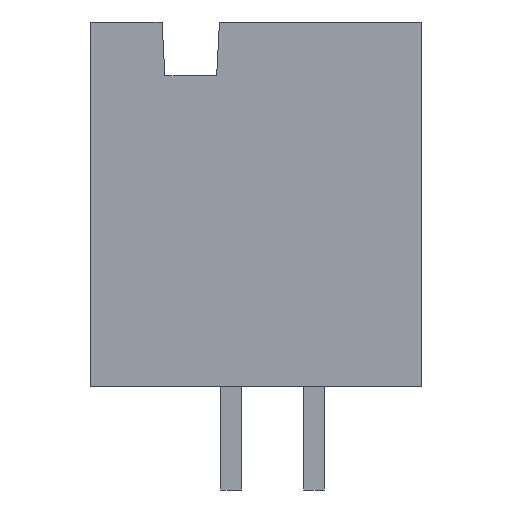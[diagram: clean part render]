
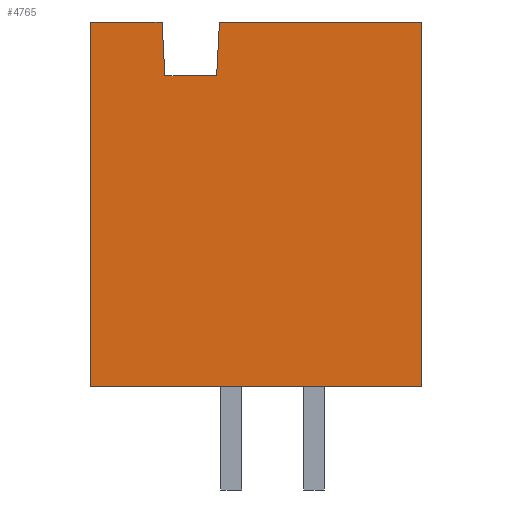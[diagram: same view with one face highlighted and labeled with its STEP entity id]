
A CAD part, left-side view. The second image highlights one B-rep face of the part: STEP entity #4765.
In plain terms, the highlighted planar face has unit normal (-1, 0, 0).
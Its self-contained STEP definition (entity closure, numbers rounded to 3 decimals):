
#72=DIRECTION('',(0.,-1.,0.));
#73=VECTOR('',#72,2.199);
#74=CARTESIAN_POINT('',(-16.256,5.08,0.));
#75=LINE('',#74,#73);
#120=DIRECTION('',(0.,-1.,0.));
#121=VECTOR('',#120,6.2);
#122=CARTESIAN_POINT('',(-16.256,1.12,0.));
#123=LINE('',#122,#121);
#152=DIRECTION('',(0.,1.,0.));
#153=VECTOR('',#152,1.588);
#154=CARTESIAN_POINT('',(-16.256,1.207,-1.651));
#155=LINE('',#154,#153);
#156=DIRECTION('',(0.,0.052,-0.999));
#157=VECTOR('',#156,1.653);
#158=CARTESIAN_POINT('',(-16.256,1.12,0.));
#159=LINE('',#158,#157);
#160=DIRECTION('',(0.,0.,-1.));
#161=VECTOR('',#160,11.176);
#162=CARTESIAN_POINT('',(-16.256,5.08,0.));
#163=LINE('',#162,#161);
#164=DIRECTION('',(0.,0.052,0.999));
#165=VECTOR('',#164,1.653);
#166=CARTESIAN_POINT('',(-16.256,2.794,-1.651));
#167=LINE('',#166,#165);
#264=DIRECTION('',(0.,-1.,0.));
#265=VECTOR('',#264,10.16);
#266=CARTESIAN_POINT('',(-16.256,5.08,-11.176));
#267=LINE('',#266,#265);
#652=DIRECTION('',(0.,0.,-1.));
#653=VECTOR('',#652,11.176);
#654=CARTESIAN_POINT('',(-16.256,-5.08,0.));
#655=LINE('',#654,#653);
#3540=CARTESIAN_POINT('',(-16.256,-5.08,0.));
#3542=VERTEX_POINT('',#3540);
#3545=CARTESIAN_POINT('',(-16.256,5.08,0.));
#3547=VERTEX_POINT('',#3545);
#3548=CARTESIAN_POINT('',(-16.256,5.08,-11.176));
#3549=CARTESIAN_POINT('',(-16.256,-5.08,-11.176));
#3550=VERTEX_POINT('',#3548);
#3551=VERTEX_POINT('',#3549);
#3576=CARTESIAN_POINT('',(-16.256,1.207,-1.651));
#3577=CARTESIAN_POINT('',(-16.256,2.794,-1.651));
#3578=VERTEX_POINT('',#3576);
#3579=VERTEX_POINT('',#3577);
#3592=CARTESIAN_POINT('',(-16.256,2.881,0.));
#3593=VERTEX_POINT('',#3592);
#3594=CARTESIAN_POINT('',(-16.256,1.12,0.));
#3595=VERTEX_POINT('',#3594);
#4744=CARTESIAN_POINT('',(-16.256,5.08,0.));
#4745=DIRECTION('',(-1.,0.,0.));
#4746=DIRECTION('',(0.,-1.,0.));
#4747=AXIS2_PLACEMENT_3D('',#4744,#4745,#4746);
#4748=PLANE('',#4747);
#4750=ORIENTED_EDGE('',*,*,#4749,.F.);
#4752=ORIENTED_EDGE('',*,*,#4751,.F.);
#4753=ORIENTED_EDGE('',*,*,#4725,.T.);
#4755=ORIENTED_EDGE('',*,*,#4754,.T.);
#4757=ORIENTED_EDGE('',*,*,#4756,.F.);
#4759=ORIENTED_EDGE('',*,*,#4758,.F.);
#4760=ORIENTED_EDGE('',*,*,#4693,.T.);
#4762=ORIENTED_EDGE('',*,*,#4761,.F.);
#4763=EDGE_LOOP('',(#4750,#4752,#4753,#4755,#4757,#4759,#4760,#4762));
#4764=FACE_OUTER_BOUND('',#4763,.F.);
#4765=ADVANCED_FACE('',(#4764),#4748,.T.);
#4693=EDGE_CURVE('',#3547,#3593,#75,.T.);
#4725=EDGE_CURVE('',#3595,#3542,#123,.T.);
#4749=EDGE_CURVE('',#3578,#3579,#155,.T.);
#4751=EDGE_CURVE('',#3595,#3578,#159,.T.);
#4754=EDGE_CURVE('',#3542,#3551,#655,.T.);
#4756=EDGE_CURVE('',#3550,#3551,#267,.T.);
#4758=EDGE_CURVE('',#3547,#3550,#163,.T.);
#4761=EDGE_CURVE('',#3579,#3593,#167,.T.);
